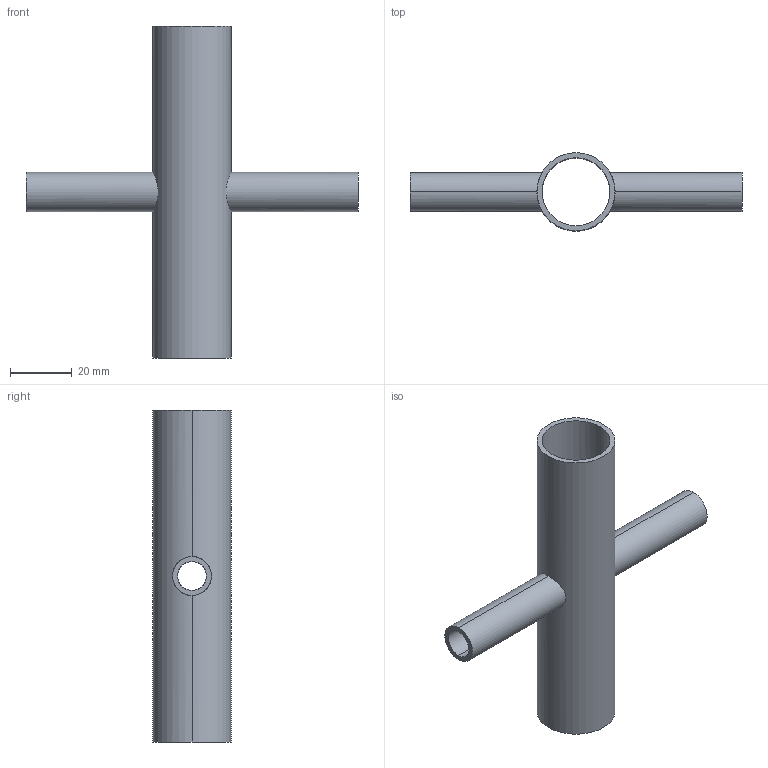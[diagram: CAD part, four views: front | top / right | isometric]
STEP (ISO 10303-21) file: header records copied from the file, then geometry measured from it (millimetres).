
FILE_DESCRIPTION (( 'STEP AP214' ), '1' );
FILE_NAME ('TE9RWWWW6L1.0x.5-...STEP', '2016-05-22T04:10:15', ( 'eran' ), ( '' ), 'SwSTEP 2.0', 'SolidWorks 2016', '' );
FILE_SCHEMA (( 'AUTOMOTIVE_DESIGN' ));
Length unit declared in the file: millimetre
Products named in the file (1): TE9RWWWW6L1.0x.5-..
Bounding box: 107.95 x 25.4 x 107.95 mm (x, y, z)
Volume: 17867.6 mm3; surface area: 21990.6 mm2
Topology: 1 solids, 1 shells, 16 faces, 40 edges, 24 vertices
Faces by surface type: cylinder 12, plane 4
Entity records: 834 total; most frequent: CARTESIAN_POINT 409, DIRECTION 82, ORIENTED_EDGE 80, EDGE_CURVE 40, AXIS2_PLACEMENT_3D 33, VERTEX_POINT 24, EDGE_LOOP 20, VECTOR 16
